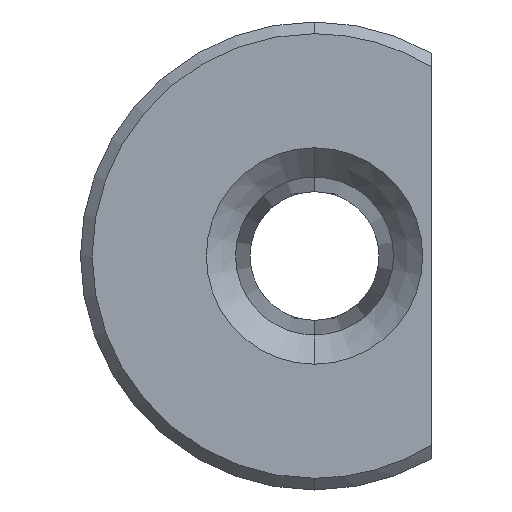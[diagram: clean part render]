
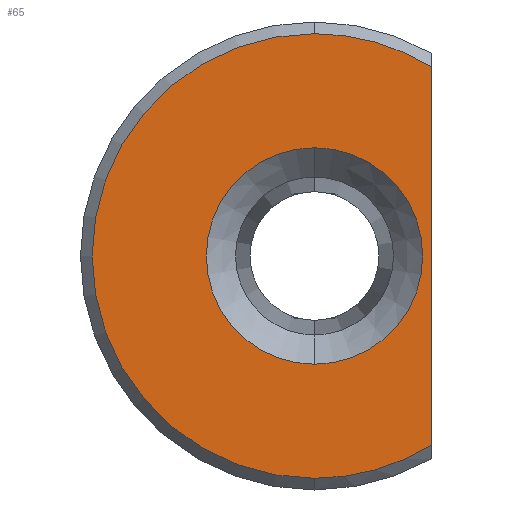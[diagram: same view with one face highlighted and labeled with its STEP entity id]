
A CAD part, front view. The second image highlights one B-rep face of the part: STEP entity #65.
In plain terms, the highlighted planar face has unit normal (0, -1, 0).
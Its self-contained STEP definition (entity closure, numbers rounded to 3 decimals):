
#19 = DIRECTION ( 'NONE',  ( 0., 0., -1. ) ) ;
#20 = CIRCLE ( 'NONE', #73, 3.8 ) ;
#25 = DIRECTION ( 'NONE',  ( 0., 0., -1. ) ) ;
#28 = CARTESIAN_POINT ( 'NONE',  ( 2., 0., 3.464 ) ) ;
#29 = ORIENTED_EDGE ( 'NONE', *, *, #53, .F. ) ;
#33 = DIRECTION ( 'NONE',  ( 0., 0., -1. ) ) ;
#48 = CARTESIAN_POINT ( 'NONE',  ( 0., 0., 0. ) ) ;
#52 = CIRCLE ( 'NONE', #693, 1.85 ) ;
#53 = EDGE_CURVE ( 'NONE', #467, #60, #406, .T. ) ;
#60 = VERTEX_POINT ( 'NONE', #665 ) ;
#62 = CIRCLE ( 'NONE', #715, 1.85 ) ;
#63 = DIRECTION ( 'NONE',  ( 0., 0., -1. ) ) ;
#65 = ADVANCED_FACE ( 'NONE', ( #76, #90 ), #328, .T. ) ;
#73 = AXIS2_PLACEMENT_3D ( 'NONE', #417, #713, #359 ) ;
#76 = FACE_BOUND ( 'NONE', #192, .T. ) ;
#77 = EDGE_LOOP ( 'NONE', ( #29, #135, #363, #206 ) ) ;
#87 = CARTESIAN_POINT ( 'NONE',  ( -4., 0., 0. ) ) ;
#90 = FACE_OUTER_BOUND ( 'NONE', #77, .T. ) ;
#135 = ORIENTED_EDGE ( 'NONE', *, *, #559, .T. ) ;
#163 = VERTEX_POINT ( 'NONE', #166 ) ;
#165 = CARTESIAN_POINT ( 'NONE',  ( 0., 0., -1.85 ) ) ;
#166 = CARTESIAN_POINT ( 'NONE',  ( 0., 0., -3.8 ) ) ;
#184 = CARTESIAN_POINT ( 'NONE',  ( 0., 0., 0. ) ) ;
#185 = ORIENTED_EDGE ( 'NONE', *, *, #808, .T. ) ;
#192 = EDGE_LOOP ( 'NONE', ( #637, #185 ) ) ;
#206 = ORIENTED_EDGE ( 'NONE', *, *, #777, .T. ) ;
#223 = VERTEX_POINT ( 'NONE', #407 ) ;
#236 = CARTESIAN_POINT ( 'NONE',  ( 0., 0., 0. ) ) ;
#322 = DIRECTION ( 'NONE',  ( 0., -1., 0. ) ) ;
#328 = PLANE ( 'NONE',  #594 ) ;
#334 = CIRCLE ( 'NONE', #663, 3.8 ) ;
#359 = DIRECTION ( 'NONE',  ( 0., 0., -1. ) ) ;
#363 = ORIENTED_EDGE ( 'NONE', *, *, #730, .T. ) ;
#406 = LINE ( 'NONE', #28, #422 ) ;
#407 = CARTESIAN_POINT ( 'NONE',  ( 0., 0., 3.8 ) ) ;
#411 = DIRECTION ( 'NONE',  ( 0., -1., 0. ) ) ;
#417 = CARTESIAN_POINT ( 'NONE',  ( 0., 0., 0. ) ) ;
#422 = VECTOR ( 'NONE', #19, 1000. ) ;
#467 = VERTEX_POINT ( 'NONE', #635 ) ;
#496 = DIRECTION ( 'NONE',  ( 0., 1., 0. ) ) ;
#518 = DIRECTION ( 'NONE',  ( 0., 1., 0. ) ) ;
#559 = EDGE_CURVE ( 'NONE', #467, #223, #761, .T. ) ;
#578 = DIRECTION ( 'NONE',  ( 0., -1., 0. ) ) ;
#583 = DIRECTION ( 'NONE',  ( 0., 0., -1. ) ) ;
#594 = AXIS2_PLACEMENT_3D ( 'NONE', #87, #322, #25 ) ;
#627 = AXIS2_PLACEMENT_3D ( 'NONE', #762, #578, #583 ) ;
#633 = EDGE_CURVE ( 'NONE', #688, #791, #62, .T. ) ;
#635 = CARTESIAN_POINT ( 'NONE',  ( 2., 0., 3.231 ) ) ;
#637 = ORIENTED_EDGE ( 'NONE', *, *, #633, .T. ) ;
#663 = AXIS2_PLACEMENT_3D ( 'NONE', #48, #411, #33 ) ;
#665 = CARTESIAN_POINT ( 'NONE',  ( 2., 0., -3.231 ) ) ;
#688 = VERTEX_POINT ( 'NONE', #165 ) ;
#693 = AXIS2_PLACEMENT_3D ( 'NONE', #236, #496, #754 ) ;
#713 = DIRECTION ( 'NONE',  ( 0., -1., 0. ) ) ;
#715 = AXIS2_PLACEMENT_3D ( 'NONE', #184, #518, #63 ) ;
#730 = EDGE_CURVE ( 'NONE', #223, #163, #20, .T. ) ;
#754 = DIRECTION ( 'NONE',  ( 0., 0., -1. ) ) ;
#761 = CIRCLE ( 'NONE', #627, 3.8 ) ;
#762 = CARTESIAN_POINT ( 'NONE',  ( 0., 0., 0. ) ) ;
#777 = EDGE_CURVE ( 'NONE', #163, #60, #334, .T. ) ;
#791 = VERTEX_POINT ( 'NONE', #816 ) ;
#808 = EDGE_CURVE ( 'NONE', #791, #688, #52, .T. ) ;
#816 = CARTESIAN_POINT ( 'NONE',  ( 0., 0., 1.85 ) ) ;
